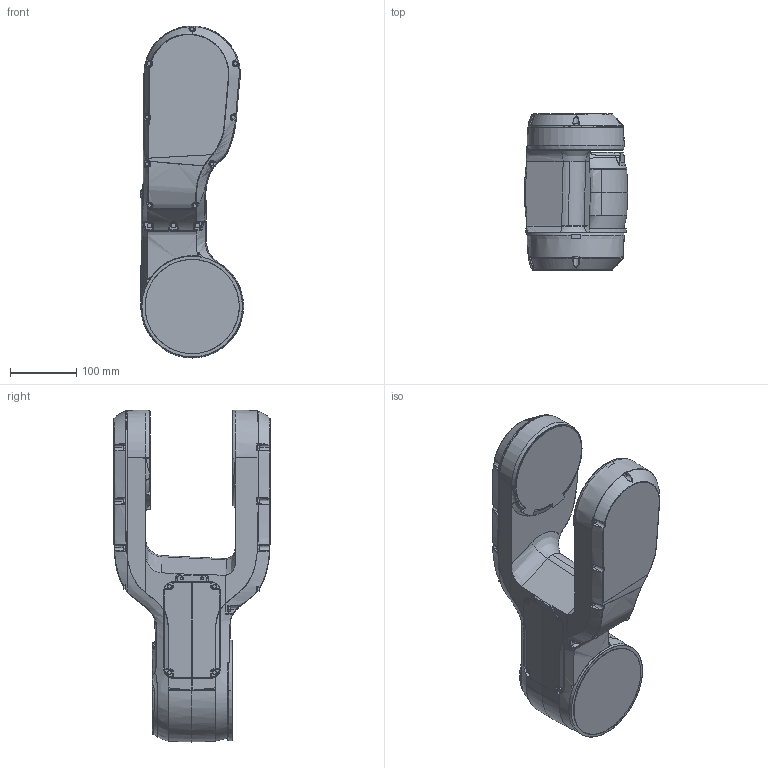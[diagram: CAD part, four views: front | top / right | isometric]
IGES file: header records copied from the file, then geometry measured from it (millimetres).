
Start section: SolidWorks IGES file using analytic representation for surfaces
Global section: file name: C:\Users\CNSHAN\Desktop\IRB1200H Light Weight Model\IRB1200H_7-70_IRC5_rev0_joints\IRB1200H_7-70_IRC5_Link2_rev0.igs; native system: SolidWorks 2020; preprocessor: SolidWorks 2020; author: CNSHAN; date: 220117.163546; units: millimetre
Bounding box: 155.5 x 235 x 499.94 mm (x, y, z)
Surface area: 333242.6 mm2 (no closed solid volume)
Topology: 0 solids, 0 shells, 1119 faces, 13798 edges, 13778 vertices
Faces by surface type: bspline 809, revolution 310
